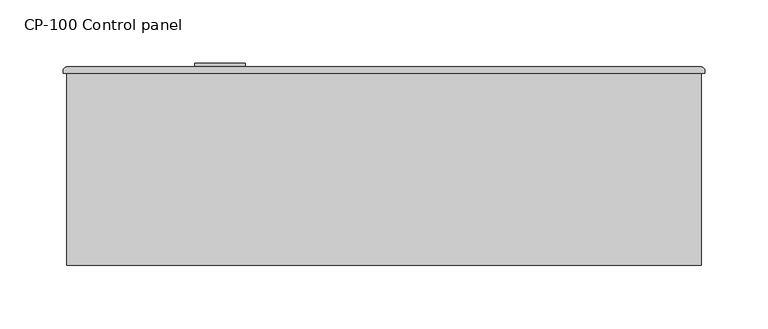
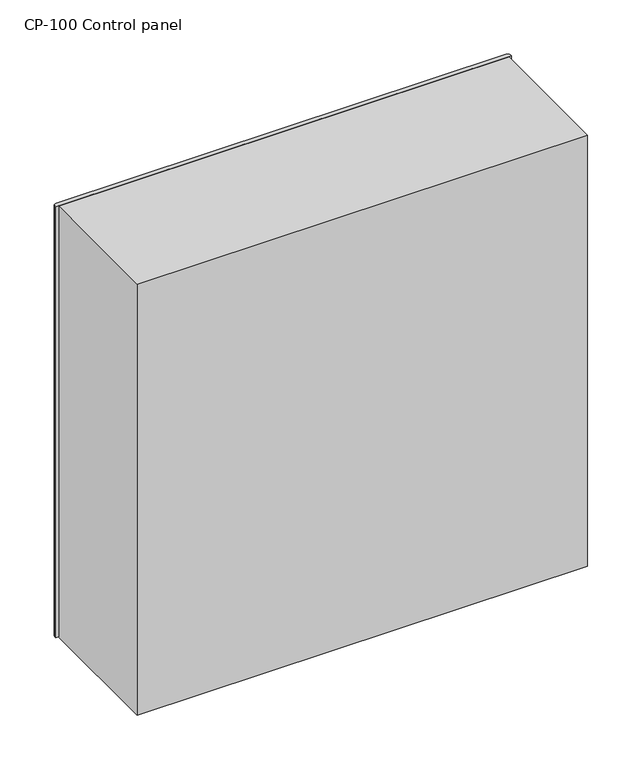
"""IFC4 building model written with IfcOpenShell, lengths in millimetres: proxy geometry, CP-100_Control_Panel_Wallmount_BIM_Model_Config6 : CP-100 Control panel."""

from ifc_helpers import new_model, si_unit, point, frame, frame_2d, origin, place, context, project, spatial, polyline, circle_curve, trimmed, segment, composite_curve, outline, extrude, source, transform, mapped, element, save


def cp_100_control_panel_70f97e11(model_context):
    return source(origin(), model_context, "Body", "SweptSolid", [
        extrude(outline(composite_curve([segment(trimmed(circle_curve(frame_2d((381.0, -16.7274277)), 20.0), [point((381.0, -36.7274277))], [point((381.0, 3.2725723))], False, "CARTESIAN"), True, "CONTINUOUS"), segment(trimmed(circle_curve(frame_2d((381.0, -16.7274277)), 20.0), [point((381.0, 3.2725723))], [point((381.0, -36.7274277))], False, "CARTESIAN"), True, "CONTINUOUS")], self_intersect=False), holes=[polyline([(388.2746144, -18.5031745), (388.2746144, -13.5031745), (373.2746144, -13.5031745), (373.2746144, -18.5031745), (388.2746144, -18.5031745)])]), frame((0.0, 169.0, 0.0), z_axis=(0.0, 1.0, 0.0), x_axis=(0.0, 0.0, 1.0)), (0.0, 0.0, 1.0), 3.0),
        extrude(outline(composite_curve([segment(trimmed(circle_curve(frame_2d((364.2220771, 166.0)), 3.0), [point((364.2220771, 169.0))], [point((367.2220771, 166.0))], False, "CARTESIAN"), True, "CONTINUOUS"), segment(polyline([(367.2220771, 166.0), (367.2220771, 164.0), (-140.7779229, 164.0), (-140.7779229, 166.0)]), True, "CONTINUOUS"), segment(trimmed(circle_curve(frame_2d((-137.7779229, 166.0)), 3.0), [point((-140.7779229, 166.0))], [point((-137.7779229, 169.0))], False, "CARTESIAN"), True, "CONTINUOUS"), segment(polyline([(-137.7779229, 169.0), (364.2220771, 169.0)]), True, "CONTINUOUS")], self_intersect=False)), frame((0.0, 0.0, 127.0), z_axis=(0.0, 0.0, 1.0), x_axis=(1.0, 0.0, 0.0)), (0.0, 0.0, 1.0), 508.0),
        extrude(outline(polyline([(364.2220771, 164.0), (364.2220771, 12.0), (-137.7779229, 12.0), (-137.7779229, 164.0), (364.2220771, 164.0)])), frame((0.0, 0.0, 127.0), z_axis=(0.0, 0.0, 1.0), x_axis=(1.0, 0.0, 0.0)), (0.0, 0.0, 1.0), 508.0),
    ])


if __name__ == "__main__":
    model = new_model("IFC4")
    model_context = context("Model", 3, world=origin())
    ifc_project = project(units=[si_unit("LENGTHUNIT", "METRE", prefix="MILLI")], contexts=[model_context])
    site = spatial("IfcSite", under=ifc_project)
    building = spatial("IfcBuilding", under=site)
    placement = place(None, origin())
    cp_100_control_panel_shape = cp_100_control_panel_70f97e11(model_context)
    element("IfcBuildingElementProxy", 1, Name="CP-100_Control_Panel_Wallmount_BIM_Model_Config6 : CP-100 Control panel", ObjectType="CP-100_Control_Panel_Wallmount_BIM_Model_Config6 : CP-100 Control panel", at=placement, inside=building, context=model_context, shape_type="MappedRepresentation", body=[
        mapped(cp_100_control_panel_shape, transform((0.0, 0.0, 0.0), x_axis=(1.0, 0.0, 0.0), y_axis=(0.0, 1.0, 0.0), z_axis=(0.0, 0.0, 1.0))),
    ])
    save(model, "model.ifc")
